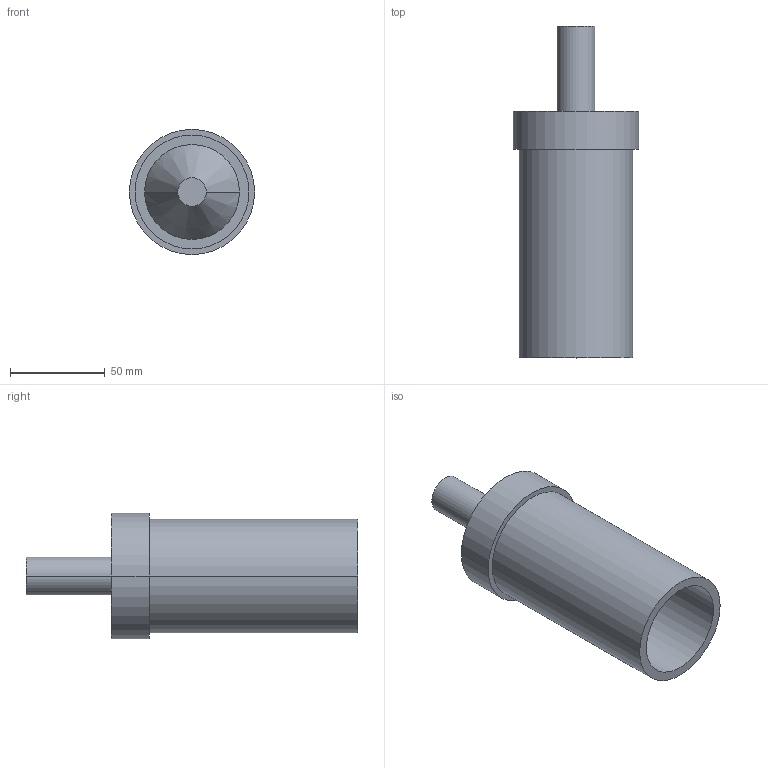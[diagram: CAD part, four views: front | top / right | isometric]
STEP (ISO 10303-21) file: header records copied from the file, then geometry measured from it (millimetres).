
FILE_DESCRIPTION (( 'STEP AP203' ), '1' );
FILE_NAME ('30260.STEP', '2013-05-06T13:39:40', ( '' ), ( '' ), 'SwSTEP 2.0', 'SolidWorks 2011', '' );
FILE_SCHEMA (( 'CONFIG_CONTROL_DESIGN' ));
Length unit declared in the file: millimetre
Products named in the file (1): 30260
Bounding box: 66 x 175 x 66 mm (x, y, z)
Volume: 203067.3 mm3; surface area: 53414.5 mm2
Topology: 1 solids, 1 shells, 15 faces, 28 edges, 18 vertices
Faces by surface type: cylinder 8, plane 5, cone 2
Entity records: 461 total; most frequent: DIRECTION 78, CARTESIAN_POINT 62, ORIENTED_EDGE 56, AXIS2_PLACEMENT_3D 34, EDGE_CURVE 28, VERTEX_POINT 18, CIRCLE 18, EDGE_LOOP 18
